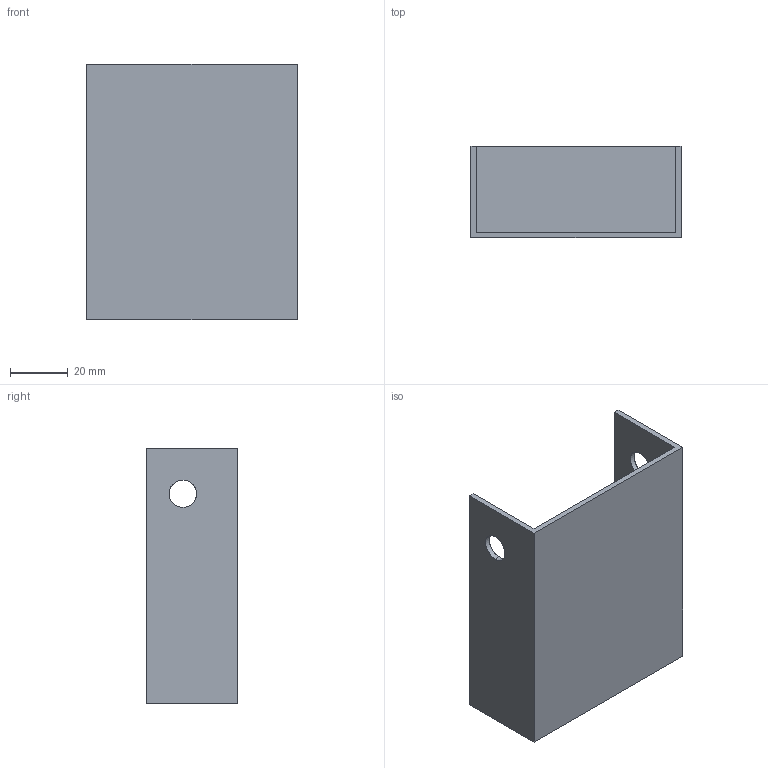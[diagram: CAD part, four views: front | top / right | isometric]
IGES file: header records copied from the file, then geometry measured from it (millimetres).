
Start section: SolidWorks IGES FILE using analytic representation for surfaces
Global section: file name: C:\Temp\trainfiles\Sheet Metal Course\Lesson02_Labs\igesLab-mod.IGS; native system: SolidWorks 2001 by SolidWorks Corporation; preprocessor: Version 5.2; author: fkoehler; date: 010618.130431; units: inch
Bounding box: 73.03 x 31.75 x 88.9 mm (x, y, z)
Surface area: 27965.8 mm2 (no closed solid volume)
Topology: 0 solids, 0 shells, 20 faces, 256 edges, 256 vertices
Faces by surface type: bspline 14, revolution 6
